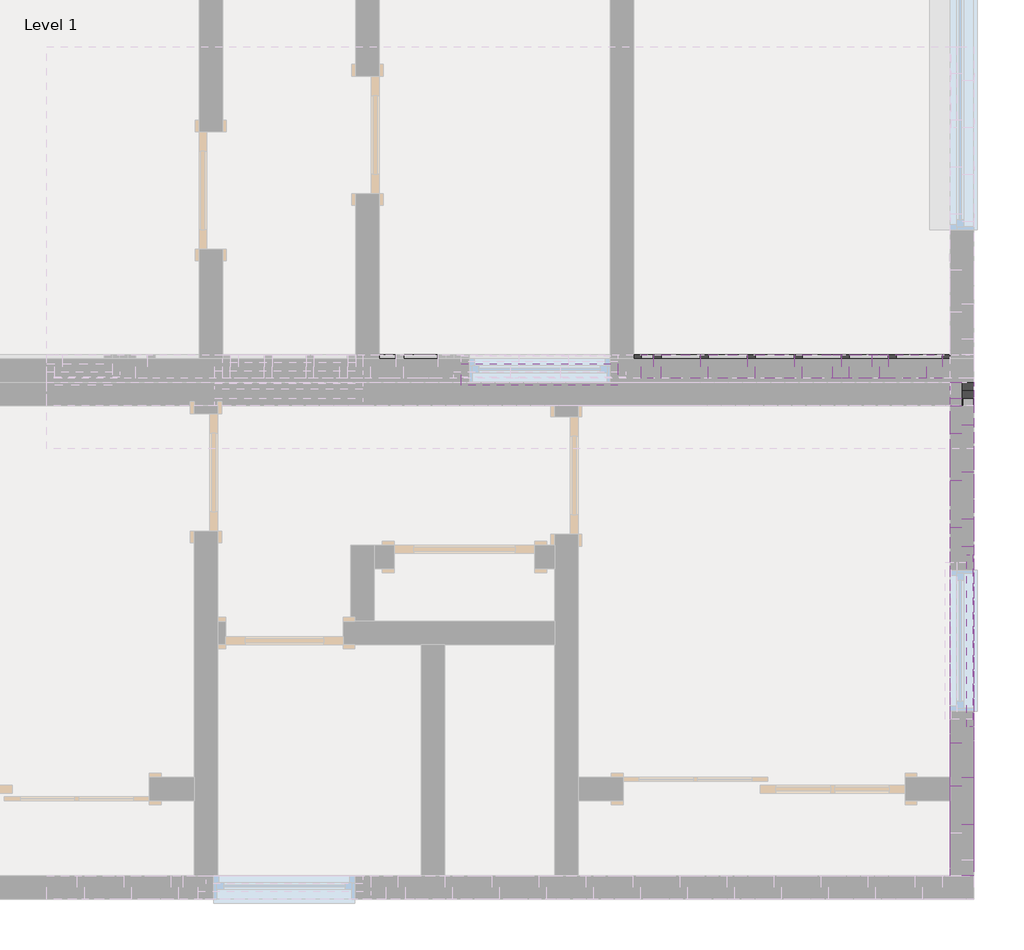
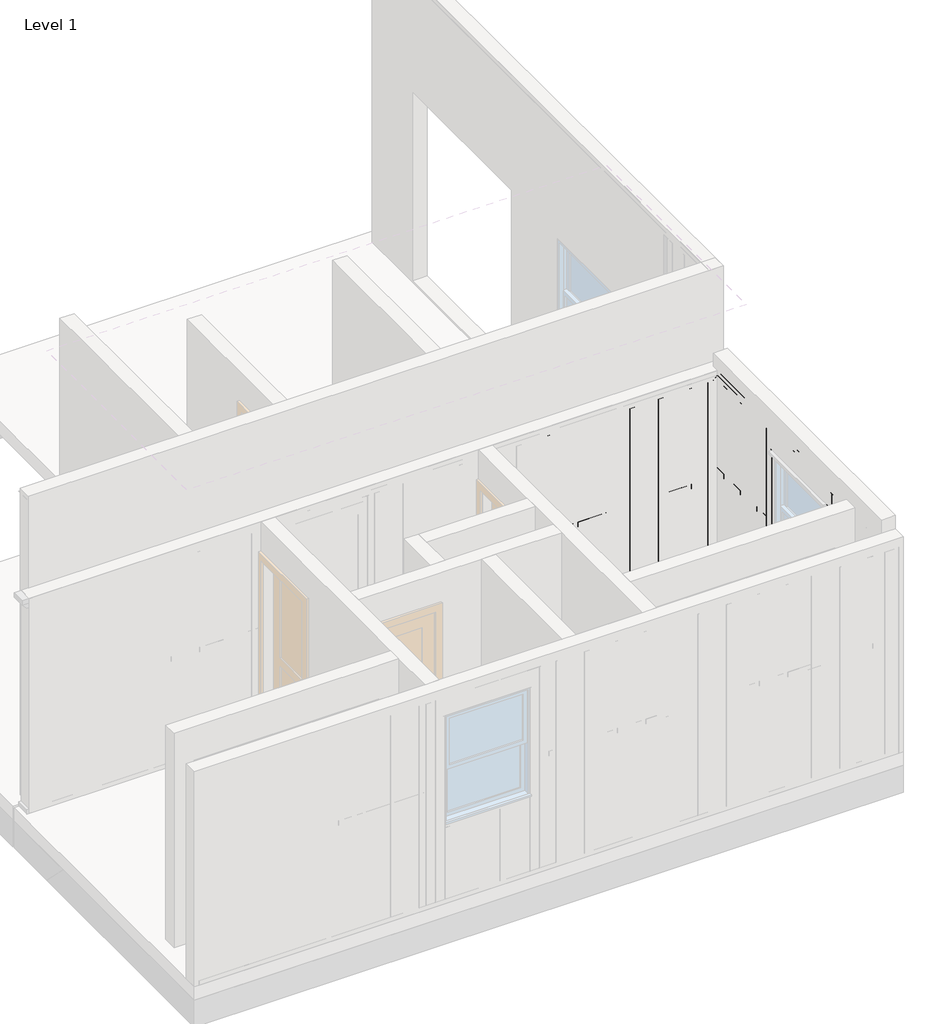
# One storey, part 6 of 12: 101 beams.
"""IFC4 building model written with IfcOpenShell, lengths in millimetres."""

from ifc_helpers import new_model, si_unit, frame, origin, origin_with_axes, place, context, project, spatial, polyline, outline, extrude, transform, mapped, element, save
from components import beam_19dc0cb4, beam_19b97b81, beam_ea41eedf, beam_df0c2ff2, beam_987380b4, beam_558964e0, beam_a6087a68, beam_303ef41e, beam_e0216813, beam_b7962ac8, beam_15472744, beam_e05c4371, beam_c305210a, beam_e041d9c6, beam_d532e8d7, beam_9beb57b8, beam_4316c0f3, beam_6c0b117f, beam_b94c8671, beam_50f049cc, beam_14a9e158, beam_a4d90c35, beam_b09705a2, beam_34389604, beam_9d6aa0d6, beam_89d9a2a3, beam_b55a0d5f, beam_51b55d0f, beam_9a5d82eb, beam_92cb46f1, beam_68e625a2

model = new_model("IFC4")

# Units and contexts
model_context = context("Model", 3, world=origin())
ifc_project = project(units=[si_unit("LENGTHUNIT", "METRE", prefix="MILLI")], contexts=[model_context])

# Site, building, storey
site = spatial("IfcSite", under=ifc_project)
building = spatial("IfcBuilding", under=site)
storey = spatial("IfcBuildingStorey", under=building, Name="Level 1", Elevation=0.0)

# Beams
placement = place(None, origin())
element("IfcBeam", 1, ObjectType="Rectangular(Timber)-Beam : Timber_0' - 1 31/32\" x0' - 5 29/32\" _ContentGenerator", at=placement, inside=storey, context=model_context, shape_type="SweptSolid", body=[
    extrude(outline(polyline([(-25186.1713369, 2387.6), (-25236.9713369, 2336.8), (-28335.7663369, 2336.8), (-28386.5663369, 2387.6), (-25186.1713369, 2387.6)])), frame((-4062.0790766, 0.0, 0.0), z_axis=(1.0, 0.0, 0.0), x_axis=(0.0, 1.0, 0.0)), (0.0, 0.0, 1.0), 152.4),
])
element("IfcBeam", 2, ObjectType="Rectangular(Timber)-Beam : Timber_0' - 1 31/32\" x0' - 5 29/32\" _ContentGenerator", at=placement, inside=storey, context=model_context, shape_type="SweptSolid", body=[
    extrude(outline(polyline([(-25236.9713369, 2336.8), (-25186.1713369, 2387.6), (-25186.1713369, 0.0), (-25236.9713369, 0.0), (-25236.9713369, 2336.8)])), frame((-4062.0790766, 0.0, 0.0), z_axis=(1.0, 0.0, 0.0), x_axis=(0.0, 1.0, 0.0)), (0.0, 0.0, 1.0), 152.4),
])
element("IfcBeam", 3, ObjectType="Rectangular(Timber)-Beam : Timber_0' - 1 31/32\" x0' - 5 29/32\" _ContentGenerator", at=placement, inside=storey, context=model_context, shape_type="SweptSolid", body=[
    extrude(outline(polyline([(-3909.6790766, -27421.3663369), (-3909.6790766, -27472.1663369), (-4062.0790766, -27472.1663369), (-4062.0790766, -27421.3663369), (-3909.6790766, -27421.3663369)])), frame((0.0, 0.0, 50.8), z_axis=(0.0, 0.0, 1.0), x_axis=(1.0, 0.0, 0.0)), (0.0, 0.0, 1.0), 2286.0),
])
element("IfcBeam", 4, ObjectType="Rectangular(Timber)-Beam : Timber_0' - 1 31/32\" x0' - 5 29/32\" _ContentGenerator", at=placement, inside=storey, context=model_context, shape_type="SweptSolid", body=[
    extrude(outline(polyline([(-3909.6790766, -26252.9863369), (-3909.6790766, -26303.7863369), (-4062.0790766, -26303.7863369), (-4062.0790766, -26252.9863369), (-3909.6790766, -26252.9863369)])), frame((0.0, 0.0, 50.8), z_axis=(0.0, 0.0, 1.0), x_axis=(1.0, 0.0, 0.0)), (0.0, 0.0, 1.0), 2286.0),
])
element("IfcBeam", 5, ObjectType="Rectangular(Timber)-Beam : Timber_0' - 1 31/32\" x0' - 5 29/32\" _ContentGenerator", at=placement, inside=storey, context=model_context, shape_type="SweptSolid", body=[
    extrude(outline(polyline([(2387.6, -4062.0890766), (2336.8, -4112.8890766), (50.8, -4112.8890766), (50.8, -4062.0890766), (2387.6, -4062.0890766)])), frame((0.0, -25338.5763369, 0.0), z_axis=(0.0, 1.0, 0.0), x_axis=(0.0, 0.0, 1.0)), (0.0, 0.0, 1.0), 152.4),
])
element("IfcBeam", 6, ObjectType="Rectangular(Timber)-Beam : Timber_0' - 1 31/32\" x0' - 5 29/32\" _ContentGenerator", at=placement, inside=storey, context=model_context, shape_type="SweptSolid", body=[
    extrude(outline(polyline([(-3909.6790766, -28335.7663369), (-4062.0790766, -28335.7663369), (-4062.0790766, -25236.9713369), (-3909.6790766, -25236.9713369), (-3909.6790766, -28335.7663369)])), origin_with_axes(), (0.0, 0.0, 1.0), 50.8),
])
element("IfcBeam", 7, ObjectType="Rectangular(Timber)-Beam : Timber_0' - 1 31/32\" x0' - 5 29/32\" _ContentGenerator", at=placement, inside=storey, context=model_context, shape_type="SweptSolid", body=[
    extrude(outline(polyline([(-3909.6740766, -25186.1763369), (-3909.6740766, -25338.5763369), (-7922.8840766, -25338.5763369), (-7922.8840766, -25186.1763369), (-3909.6740766, -25186.1763369)])), origin_with_axes(), (0.0, 0.0, 1.0), 50.8),
])
element("IfcBeam", 8, ObjectType="Rectangular(Timber)-Beam : Timber_0' - 1 31/32\" x0' - 5 29/32\" _ContentGenerator", at=placement, inside=storey, context=model_context, shape_type="SweptSolid", body=[
    extrude(outline(polyline([(-7922.8840766, -25160.7763369), (-7922.8840766, -25008.3763369), (-3960.4740766, -25008.3763369), (-3960.4740766, -25160.7763369), (-7922.8840766, -25160.7763369)])), origin_with_axes(), (0.0, 0.0, 1.0), 50.8),
])
element("IfcBeam", 9, ObjectType="Rectangular(Timber)-Beam : Timber_0' - 1 31/32\" x0' - 5 29/32\" _ContentGenerator", at=placement, inside=storey, context=model_context, shape_type="SweptSolid", body=[
    extrude(outline(polyline([(-3909.6790766, -26202.1863369), (-3909.6790766, -26252.9863369), (-4062.0790766, -26252.9863369), (-4062.0790766, -26202.1863369), (-3909.6790766, -26202.1863369)])), frame((0.0, 0.0, 50.8), z_axis=(0.0, 0.0, 1.0), x_axis=(1.0, 0.0, 0.0)), (0.0, 0.0, 1.0), 2286.0),
])
element("IfcBeam", 10, ObjectType="Rectangular(Timber)-Beam : Timber_0' - 1 31/32\" x0' - 5 29/32\" _ContentGenerator", at=placement, inside=storey, context=model_context, shape_type="SweptSolid", body=[
    extrude(outline(polyline([(-3909.6790766, -27472.1463369), (-3909.6790766, -27522.9463369), (-4062.0790766, -27522.9463369), (-4062.0790766, -27472.1463369), (-3909.6790766, -27472.1463369)])), frame((0.0, 0.0, 50.8), z_axis=(0.0, 0.0, 1.0), x_axis=(1.0, 0.0, 0.0)), (0.0, 0.0, 1.0), 2286.0),
])
beam_shape = beam_19dc0cb4(model_context)
element("IfcBeam", 11, ObjectType="Rectangular(Timber)-Beam : Timber_0' - 1 31/32\" x0' - 5 29/32\" _ContentGenerator", at=placement, inside=storey, context=model_context, shape_type="MappedRepresentation", body=[
    mapped(beam_shape, transform((-4163.6790766, -25084.5763369, 1314.45), x_axis=(1.0000000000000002, 0.0, 0.0), y_axis=(0.0, 0.0, -1.0000000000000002), z_axis=(0.0, 1.0000000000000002, 0.0))),
])
beam_2_shape = beam_19b97b81(model_context)
element("IfcBeam", 12, ObjectType="Rectangular(Timber)-Beam : Timber_0' - 1 31/32\" x0' - 5 29/32\" _ContentGenerator", at=placement, inside=storey, context=model_context, shape_type="MappedRepresentation", body=[
    mapped(beam_2_shape, transform((-4697.0890766, -25084.5763369, 1314.45), x_axis=(1.0000000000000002, 0.0, 0.0), y_axis=(0.0, 0.0, -1.0000000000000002), z_axis=(0.0, 1.0000000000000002, 0.0))),
])
beam_3_shape = beam_ea41eedf(model_context)
element("IfcBeam", 13, ObjectType="Rectangular(Timber)-Beam : Timber_0' - 1 31/32\" x0' - 5 29/32\" _ContentGenerator", at=placement, inside=storey, context=model_context, shape_type="MappedRepresentation", body=[
    mapped(beam_3_shape, transform((-3985.8790766, -27649.9613369, 1314.45), x_axis=(0.0, 1.0000000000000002, 0.0), y_axis=(0.0, 0.0, -1.0000000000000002), z_axis=(-1.0000000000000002, 0.0, 0.0))),
])
beam_4_shape = beam_df0c2ff2(model_context)
element("IfcBeam", 14, ObjectType="Rectangular(Timber)-Beam : Timber_0' - 1 31/32\" x0' - 5 29/32\" _ContentGenerator", at=placement, inside=storey, context=model_context, shape_type="MappedRepresentation", body=[
    mapped(beam_4_shape, transform((-6025.494102, -25084.5763369, 1314.45), x_axis=(1.0000000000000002, 0.0, 0.0), y_axis=(0.0, 0.0, -1.0000000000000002), z_axis=(0.0, 1.0000000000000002, 0.0))),
])
beam_5_shape = beam_987380b4(model_context)
element("IfcBeam", 15, ObjectType="Rectangular(Timber)-Beam : Timber_0' - 1 31/32\" x0' - 5 29/32\" _ContentGenerator", at=placement, inside=storey, context=model_context, shape_type="MappedRepresentation", body=[
    mapped(beam_5_shape, transform((-4316.0790766, -25084.5763369, 1314.45), x_axis=(1.0000000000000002, 0.0, 0.0), y_axis=(0.0, 0.0, -1.0000000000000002), z_axis=(0.0, 1.0000000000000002, 0.0))),
])
beam_6_shape = beam_558964e0(model_context)
element("IfcBeam", 16, ObjectType="Rectangular(Timber)-Beam : Timber_0' - 1 31/32\" x0' - 5 29/32\" _ContentGenerator", at=placement, inside=storey, context=model_context, shape_type="MappedRepresentation", body=[
    mapped(beam_6_shape, transform((-3985.8790766, -27776.9763369, 1193.8), x_axis=(0.0, 0.0, 1.0), y_axis=(0.0, -1.0, 0.0), z_axis=(1.0, 0.0, 0.0))),
])
element("IfcBeam", 17, ObjectType="Rectangular(Timber)-Beam : Timber_0' - 1 31/32\" x0' - 5 29/32\" _ContentGenerator", at=placement, inside=storey, context=model_context, shape_type="MappedRepresentation", body=[
    mapped(beam_6_shape, transform((-3985.8790766, -25262.3663369, 1193.8), x_axis=(0.0, 0.0, 1.0), y_axis=(0.0, -1.0, 0.0), z_axis=(1.0, 0.0, 0.0))),
])
element("IfcBeam", 18, ObjectType="Rectangular(Timber)-Beam : Timber_0' - 1 31/32\" x0' - 5 29/32\" _ContentGenerator", at=placement, inside=storey, context=model_context, shape_type="MappedRepresentation", body=[
    mapped(beam_6_shape, transform((-3985.8790766, -26100.5763369, 1193.8), x_axis=(0.0, 0.0, 1.0), y_axis=(0.0, -1.0, 0.0), z_axis=(1.0, 0.0, 0.0))),
])
element("IfcBeam", 19, ObjectType="Rectangular(Timber)-Beam : Timber_0' - 1 31/32\" x0' - 5 29/32\" _ContentGenerator", at=placement, inside=storey, context=model_context, shape_type="MappedRepresentation", body=[
    mapped(beam_6_shape, transform((-3985.8790766, -25795.7763369, 1193.8), x_axis=(0.0, 0.0, 1.0), y_axis=(0.0, -1.0, 0.0), z_axis=(1.0, 0.0, 0.0))),
])
element("IfcBeam", 20, ObjectType="Rectangular(Timber)-Beam : Timber_0' - 1 31/32\" x0' - 5 29/32\" _ContentGenerator", at=placement, inside=storey, context=model_context, shape_type="MappedRepresentation", body=[
    mapped(beam_6_shape, transform((-3985.8790766, -25490.9763369, 1193.8), x_axis=(0.0, 0.0, 1.0), y_axis=(0.0, -1.0, 0.0), z_axis=(1.0, 0.0, 0.0))),
])
element("IfcBeam", 21, ObjectType="Rectangular(Timber)-Beam : Timber_0' - 1 31/32\" x0' - 5 29/32\" _ContentGenerator", at=placement, inside=storey, context=model_context, shape_type="MappedRepresentation", body=[
    mapped(beam_6_shape, transform((-4138.2890766, -25262.3763369, 1193.8), x_axis=(0.0, 0.0, 1.0), y_axis=(1.0, 0.0, 0.0), z_axis=(0.0, 1.0, 0.0))),
])
element("IfcBeam", 22, ObjectType="Rectangular(Timber)-Beam : Timber_0' - 1 31/32\" x0' - 5 29/32\" _ContentGenerator", at=placement, inside=storey, context=model_context, shape_type="MappedRepresentation", body=[
    mapped(beam_6_shape, transform((-4366.8790766, -25262.3763369, 1193.8), x_axis=(0.0, 0.0, 1.0), y_axis=(1.0, 0.0, 0.0), z_axis=(0.0, 1.0, 0.0))),
])
element("IfcBeam", 23, ObjectType="Rectangular(Timber)-Beam : Timber_0' - 1 31/32\" x0' - 5 29/32\" _ContentGenerator", at=placement, inside=storey, context=model_context, shape_type="MappedRepresentation", body=[
    mapped(beam_6_shape, transform((-4671.6790766, -25262.3763369, 1193.8), x_axis=(0.0, 0.0, 1.0), y_axis=(1.0, 0.0, 0.0), z_axis=(0.0, 1.0, 0.0))),
])
element("IfcBeam", 24, ObjectType="Rectangular(Timber)-Beam : Timber_0' - 1 31/32\" x0' - 5 29/32\" _ContentGenerator", at=placement, inside=storey, context=model_context, shape_type="MappedRepresentation", body=[
    mapped(beam_6_shape, transform((-4976.4790766, -25262.3763369, 1193.8), x_axis=(0.0, 0.0, 1.0), y_axis=(1.0, 0.0, 0.0), z_axis=(0.0, 1.0, 0.0))),
])
element("IfcBeam", 25, ObjectType="Rectangular(Timber)-Beam : Timber_0' - 1 31/32\" x0' - 5 29/32\" _ContentGenerator", at=placement, inside=storey, context=model_context, shape_type="MappedRepresentation", body=[
    mapped(beam_6_shape, transform((-5281.2790766, -25262.3763369, 1193.8), x_axis=(0.0, 0.0, 1.0), y_axis=(1.0, 0.0, 0.0), z_axis=(0.0, 1.0, 0.0))),
])
element("IfcBeam", 26, ObjectType="Rectangular(Timber)-Beam : Timber_0' - 1 31/32\" x0' - 5 29/32\" _ContentGenerator", at=placement, inside=storey, context=model_context, shape_type="MappedRepresentation", body=[
    mapped(beam_6_shape, transform((-5890.8790766, -25262.3763369, 1193.8), x_axis=(0.0, 0.0, 1.0), y_axis=(1.0, 0.0, 0.0), z_axis=(0.0, 1.0, 0.0))),
])
element("IfcBeam", 27, ObjectType="Rectangular(Timber)-Beam : Timber_0' - 1 31/32\" x0' - 5 29/32\" _ContentGenerator", at=placement, inside=storey, context=model_context, shape_type="MappedRepresentation", body=[
    mapped(beam_6_shape, transform((-5586.0790766, -25262.3763369, 1193.8), x_axis=(0.0, 0.0, 1.0), y_axis=(1.0, 0.0, 0.0), z_axis=(0.0, 1.0, 0.0))),
])
beam_7_shape = beam_a6087a68(model_context)
element("IfcBeam", 28, ObjectType="Rectangular(Timber)-Beam : Timber_0' - 1 31/32\" x0' - 5 29/32\" _ContentGenerator", at=placement, inside=storey, context=model_context, shape_type="MappedRepresentation", body=[
    mapped(beam_7_shape, transform((-3985.8790766, -27929.3763369, 1314.45), x_axis=(0.0, 1.0000000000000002, 0.0), y_axis=(0.0, 0.0, -1.0000000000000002), z_axis=(-1.0000000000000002, 0.0, 0.0))),
])
element("IfcBeam", 29, ObjectType="Rectangular(Timber)-Beam : Timber_0' - 1 31/32\" x0' - 5 29/32\" _ContentGenerator", at=placement, inside=storey, context=model_context, shape_type="MappedRepresentation", body=[
    mapped(beam_7_shape, transform((-5809.599102, -25084.5763369, 1314.45), x_axis=(1.0000000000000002, 0.0, 0.0), y_axis=(0.0, 0.0, -1.0000000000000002), z_axis=(0.0, 1.0000000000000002, 0.0))),
])
element("IfcBeam", 30, ObjectType="Rectangular(Timber)-Beam : Timber_0' - 1 31/32\" x0' - 5 29/32\" _ContentGenerator", at=placement, inside=storey, context=model_context, shape_type="MappedRepresentation", body=[
    mapped(beam_7_shape, transform((-5504.799102, -25084.5763369, 1314.45), x_axis=(1.0000000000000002, 0.0, 0.0), y_axis=(0.0, 0.0, -1.0000000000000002), z_axis=(0.0, 1.0000000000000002, 0.0))),
])
element("IfcBeam", 31, ObjectType="Rectangular(Timber)-Beam : Timber_0' - 1 31/32\" x0' - 5 29/32\" _ContentGenerator", at=placement, inside=storey, context=model_context, shape_type="MappedRepresentation", body=[
    mapped(beam_7_shape, transform((-5199.999102, -25084.5763369, 1314.45), x_axis=(1.0000000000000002, 0.0, 0.0), y_axis=(0.0, 0.0, -1.0000000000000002), z_axis=(0.0, 1.0000000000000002, 0.0))),
])
element("IfcBeam", 32, ObjectType="Rectangular(Timber)-Beam : Timber_0' - 1 31/32\" x0' - 5 29/32\" _ContentGenerator", at=placement, inside=storey, context=model_context, shape_type="MappedRepresentation", body=[
    mapped(beam_7_shape, transform((-4895.199102, -25084.5763369, 1314.45), x_axis=(1.0000000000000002, 0.0, 0.0), y_axis=(0.0, 0.0, -1.0000000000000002), z_axis=(0.0, 1.0000000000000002, 0.0))),
])
element("IfcBeam", 33, ObjectType="Rectangular(Timber)-Beam : Timber_0' - 1 31/32\" x0' - 5 29/32\" _ContentGenerator", at=placement, inside=storey, context=model_context, shape_type="MappedRepresentation", body=[
    mapped(beam_7_shape, transform((-4590.399102, -25084.5763369, 1314.45), x_axis=(1.0000000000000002, 0.0, 0.0), y_axis=(0.0, 0.0, -1.0000000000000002), z_axis=(0.0, 1.0000000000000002, 0.0))),
])
beam_8_shape = beam_303ef41e(model_context)
element("IfcBeam", 34, ObjectType="Rectangular(Timber)-Beam : Timber_0' - 1 31/32\" x0' - 5 29/32\" _ContentGenerator", at=placement, inside=storey, context=model_context, shape_type="MappedRepresentation", body=[
    mapped(beam_8_shape, transform((-3985.8790766, -26862.5763369, 2413.0), x_axis=(0.0, 1.0000000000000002, 0.0), y_axis=(0.0, 0.0, -1.0000000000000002), z_axis=(-1.0000000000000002, 0.0, 0.0))),
])
beam_9_shape = beam_e0216813(model_context)
element("IfcBeam", 35, ObjectType="Rectangular(Timber)-Beam : Timber_0' - 1 31/32\" x0' - 5 29/32\" _ContentGenerator", at=placement, inside=storey, context=model_context, shape_type="MappedRepresentation", body=[
    mapped(beam_9_shape, transform((-6190.589102, -25084.5763369, 1117.6), x_axis=(0.0, 0.0, 1.0), y_axis=(1.0, 0.0, 0.0), z_axis=(0.0, 1.0, 0.0))),
])
beam_10_shape = beam_b7962ac8(model_context)
element("IfcBeam", 36, ObjectType="Rectangular(Timber)-Beam : Timber_0' - 1 31/32\" x0' - 5 29/32\" _ContentGenerator", at=placement, inside=storey, context=model_context, shape_type="MappedRepresentation", body=[
    mapped(beam_10_shape, transform((-3985.8790766, -27294.3663369, 457.2), x_axis=(0.0, 0.0, 1.0), y_axis=(0.0, -1.0, 0.0), z_axis=(1.0, 0.0, 0.0))),
])
element("IfcBeam", 37, ObjectType="Rectangular(Timber)-Beam : Timber_0' - 1 31/32\" x0' - 5 29/32\" _ContentGenerator", at=placement, inside=storey, context=model_context, shape_type="MappedRepresentation", body=[
    mapped(beam_10_shape, transform((-3985.8790766, -26430.7663369, 457.2), x_axis=(0.0, 0.0, 1.0), y_axis=(0.0, -1.0, 0.0), z_axis=(1.0, 0.0, 0.0))),
])
element("IfcBeam", 38, ObjectType="Rectangular(Timber)-Beam : Timber_0' - 1 31/32\" x0' - 5 29/32\" _ContentGenerator", at=placement, inside=storey, context=model_context, shape_type="MappedRepresentation", body=[
    mapped(beam_10_shape, transform((-3985.8790766, -27023.4430036, 457.2), x_axis=(0.0, 0.0, 1.0), y_axis=(0.0, -1.0, 0.0), z_axis=(1.0, 0.0, 0.0))),
])
element("IfcBeam", 39, ObjectType="Rectangular(Timber)-Beam : Timber_0' - 1 31/32\" x0' - 5 29/32\" _ContentGenerator", at=placement, inside=storey, context=model_context, shape_type="MappedRepresentation", body=[
    mapped(beam_10_shape, transform((-3985.8790766, -26701.7096702, 457.2), x_axis=(0.0, 0.0, 1.0), y_axis=(0.0, -1.0, 0.0), z_axis=(1.0, 0.0, 0.0))),
])
beam_11_shape = beam_15472744(model_context)
element("IfcBeam", 40, ObjectType="Rectangular(Timber)-Beam : Timber_0' - 1 31/32\" x0' - 5 29/32\" _ContentGenerator", at=placement, inside=storey, context=model_context, shape_type="MappedRepresentation", body=[
    mapped(beam_11_shape, transform((-4036.6690766, -25084.5763369, 1715.8284875), x_axis=(0.0, 0.0, 1.0), y_axis=(1.0, 0.0, 0.0), z_axis=(0.0, 1.0, 0.0))),
])
element("IfcBeam", 41, ObjectType="Rectangular(Timber)-Beam : Timber_0' - 1 31/32\" x0' - 5 29/32\" _ContentGenerator", at=placement, inside=storey, context=model_context, shape_type="MappedRepresentation", body=[
    mapped(beam_11_shape, transform((-5961.999102, -25084.5763369, 1715.8284875), x_axis=(0.0, 0.0, 1.0), y_axis=(1.0, 0.0, 0.0), z_axis=(0.0, 1.0, 0.0))),
])
element("IfcBeam", 42, ObjectType="Rectangular(Timber)-Beam : Timber_0' - 1 31/32\" x0' - 5 29/32\" _ContentGenerator", at=placement, inside=storey, context=model_context, shape_type="MappedRepresentation", body=[
    mapped(beam_11_shape, transform((-5657.199102, -25084.5763369, 1715.8284875), x_axis=(0.0, 0.0, 1.0), y_axis=(1.0, 0.0, 0.0), z_axis=(0.0, 1.0, 0.0))),
])
element("IfcBeam", 43, ObjectType="Rectangular(Timber)-Beam : Timber_0' - 1 31/32\" x0' - 5 29/32\" _ContentGenerator", at=placement, inside=storey, context=model_context, shape_type="MappedRepresentation", body=[
    mapped(beam_11_shape, transform((-5352.399102, -25084.5763369, 1715.8284875), x_axis=(0.0, 0.0, 1.0), y_axis=(1.0, 0.0, 0.0), z_axis=(0.0, 1.0, 0.0))),
])
element("IfcBeam", 44, ObjectType="Rectangular(Timber)-Beam : Timber_0' - 1 31/32\" x0' - 5 29/32\" _ContentGenerator", at=placement, inside=storey, context=model_context, shape_type="MappedRepresentation", body=[
    mapped(beam_11_shape, transform((-5047.599102, -25084.5763369, 1715.8284875), x_axis=(0.0, 0.0, 1.0), y_axis=(1.0, 0.0, 0.0), z_axis=(0.0, 1.0, 0.0))),
])
element("IfcBeam", 45, ObjectType="Rectangular(Timber)-Beam : Timber_0' - 1 31/32\" x0' - 5 29/32\" _ContentGenerator", at=placement, inside=storey, context=model_context, shape_type="MappedRepresentation", body=[
    mapped(beam_11_shape, transform((-4742.799102, -25084.5763369, 1715.8284875), x_axis=(0.0, 0.0, 1.0), y_axis=(1.0, 0.0, 0.0), z_axis=(0.0, 1.0, 0.0))),
])
element("IfcBeam", 46, ObjectType="Rectangular(Timber)-Beam : Timber_0' - 1 31/32\" x0' - 5 29/32\" _ContentGenerator", at=placement, inside=storey, context=model_context, shape_type="MappedRepresentation", body=[
    mapped(beam_11_shape, transform((-4437.999102, -25084.5763369, 1715.8284875), x_axis=(0.0, 0.0, 1.0), y_axis=(1.0, 0.0, 0.0), z_axis=(0.0, 1.0, 0.0))),
])
element("IfcBeam", 47, ObjectType="Rectangular(Timber)-Beam : Timber_0' - 1 31/32\" x0' - 5 29/32\" _ContentGenerator", at=placement, inside=storey, context=model_context, shape_type="MappedRepresentation", body=[
    mapped(beam_11_shape, transform((-4087.4690766, -25084.5763369, 1715.8284875), x_axis=(0.0, 0.0, 1.0), y_axis=(1.0, 0.0, 0.0), z_axis=(0.0, 1.0, 0.0))),
])
element("IfcBeam", 48, ObjectType="Rectangular(Timber)-Beam : Timber_0' - 1 31/32\" x0' - 5 29/32\" _ContentGenerator", at=placement, inside=storey, context=model_context, shape_type="MappedRepresentation", body=[
    mapped(beam_11_shape, transform((-6088.989102, -25084.5763369, 1715.8284875), x_axis=(0.0, 0.0, 1.0), y_axis=(1.0, 0.0, 0.0), z_axis=(0.0, 1.0, 0.0))),
])
beam_12_shape = beam_e05c4371(model_context)
element("IfcBeam", 49, ObjectType="Rectangular(Timber)-Beam : Timber_0' - 1 31/32\" x0' - 5 29/32\" _ContentGenerator", at=placement, inside=storey, context=model_context, shape_type="MappedRepresentation", body=[
    mapped(beam_12_shape, transform((-3985.8790766, -26862.5663369, 889.0), x_axis=(0.0, 1.0000000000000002, 0.0), y_axis=(0.0, 0.0, -1.0000000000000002), z_axis=(-1.0000000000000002, 0.0, 0.0))),
])
element("IfcBeam", 50, ObjectType="Rectangular(Timber)-Beam : Timber_0' - 1 31/32\" x0' - 5 29/32\" _ContentGenerator", at=placement, inside=storey, context=model_context, shape_type="MappedRepresentation", body=[
    mapped(beam_2_shape, transform((-3985.8790766, -25948.1763369, 1314.45), x_axis=(0.0, 1.0000000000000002, 0.0), y_axis=(0.0, 0.0, -1.0000000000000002), z_axis=(-1.0000000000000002, 0.0, 0.0))),
])
element("IfcBeam", 51, ObjectType="Rectangular(Timber)-Beam : Timber_0' - 1 31/32\" x0' - 5 29/32\" _ContentGenerator", at=placement, inside=storey, context=model_context, shape_type="MappedRepresentation", body=[
    mapped(beam_2_shape, transform((-3985.8790766, -25643.3763369, 1314.45), x_axis=(0.0, 1.0000000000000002, 0.0), y_axis=(0.0, 0.0, -1.0000000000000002), z_axis=(-1.0000000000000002, 0.0, 0.0))),
])
element("IfcBeam", 52, ObjectType="Rectangular(Timber)-Beam : Timber_0' - 1 31/32\" x0' - 5 29/32\" _ContentGenerator", at=placement, inside=storey, context=model_context, shape_type="MappedRepresentation", body=[
    mapped(beam_2_shape, transform((-4519.2790766, -25262.3763369, 1219.2), x_axis=(-1.0000000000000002, 0.0, 0.0), y_axis=(0.0, 0.0, -1.0000000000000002), z_axis=(0.0, -1.0000000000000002, 0.0))),
])
element("IfcBeam", 53, ObjectType="Rectangular(Timber)-Beam : Timber_0' - 1 31/32\" x0' - 5 29/32\" _ContentGenerator", at=placement, inside=storey, context=model_context, shape_type="MappedRepresentation", body=[
    mapped(beam_2_shape, transform((-4824.0790766, -25262.3763369, 1219.2), x_axis=(-1.0000000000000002, 0.0, 0.0), y_axis=(0.0, 0.0, -1.0000000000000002), z_axis=(0.0, -1.0000000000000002, 0.0))),
])
element("IfcBeam", 54, ObjectType="Rectangular(Timber)-Beam : Timber_0' - 1 31/32\" x0' - 5 29/32\" _ContentGenerator", at=placement, inside=storey, context=model_context, shape_type="MappedRepresentation", body=[
    mapped(beam_2_shape, transform((-5128.8790766, -25262.3763369, 1219.2), x_axis=(-1.0000000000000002, 0.0, 0.0), y_axis=(0.0, 0.0, -1.0000000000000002), z_axis=(0.0, -1.0000000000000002, 0.0))),
])
element("IfcBeam", 55, ObjectType="Rectangular(Timber)-Beam : Timber_0' - 1 31/32\" x0' - 5 29/32\" _ContentGenerator", at=placement, inside=storey, context=model_context, shape_type="MappedRepresentation", body=[
    mapped(beam_2_shape, transform((-5433.6790766, -25262.3763369, 1219.2), x_axis=(-1.0000000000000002, 0.0, 0.0), y_axis=(0.0, 0.0, -1.0000000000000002), z_axis=(0.0, -1.0000000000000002, 0.0))),
])
element("IfcBeam", 56, ObjectType="Rectangular(Timber)-Beam : Timber_0' - 1 31/32\" x0' - 5 29/32\" _ContentGenerator", at=placement, inside=storey, context=model_context, shape_type="MappedRepresentation", body=[
    mapped(beam_2_shape, transform((-5738.4790766, -25262.3763369, 1219.2), x_axis=(-1.0000000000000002, 0.0, 0.0), y_axis=(0.0, 0.0, -1.0000000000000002), z_axis=(0.0, -1.0000000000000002, 0.0))),
])
beam_13_shape = beam_c305210a(model_context)
element("IfcBeam", 57, ObjectType="Rectangular(Timber)-Beam : Timber_0' - 1 31/32\" x0' - 5 29/32\" _ContentGenerator", at=placement, inside=storey, context=model_context, shape_type="MappedRepresentation", body=[
    mapped(beam_13_shape, transform((-3985.8790766, -26189.4813369, 1314.45), x_axis=(0.0, 1.0000000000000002, 0.0), y_axis=(0.0, 0.0, -1.0000000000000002), z_axis=(-1.0000000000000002, 0.0, 0.0))),
])
beam_14_shape = beam_e041d9c6(model_context)
element("IfcBeam", 58, ObjectType="Rectangular(Timber)-Beam : Timber_0' - 1 31/32\" x0' - 5 29/32\" _ContentGenerator", at=placement, inside=storey, context=model_context, shape_type="MappedRepresentation", body=[
    mapped(beam_14_shape, transform((-4252.5840766, -25262.3763369, 1219.2), x_axis=(-1.0000000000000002, 0.0, 0.0), y_axis=(0.0, 0.0, -1.0000000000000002), z_axis=(0.0, -1.0000000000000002, 0.0))),
])
beam_15_shape = beam_d532e8d7(model_context)
element("IfcBeam", 59, ObjectType="Rectangular(Timber)-Beam : Timber_0' - 1 31/32\" x0' - 5 29/32\" _ContentGenerator", at=placement, inside=storey, context=model_context, shape_type="MappedRepresentation", body=[
    mapped(beam_15_shape, transform((-3985.8790766, -25389.3713369, 1314.45), x_axis=(0.0, 1.0000000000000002, 0.0), y_axis=(0.0, 0.0, -1.0000000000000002), z_axis=(-1.0000000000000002, 0.0, 0.0))),
])
beam_16_shape = beam_9beb57b8(model_context)
element("IfcBeam", 60, ObjectType="Rectangular(Timber)-Beam : Timber_0' - 1 31/32\" x0' - 5 29/32\" _ContentGenerator", at=placement, inside=storey, context=model_context, shape_type="MappedRepresentation", body=[
    mapped(beam_16_shape, transform((-3985.8790766, -27345.1663369, 1101.725), x_axis=(0.0, 0.0, 1.0), y_axis=(0.0, -1.0, 0.0), z_axis=(1.0, 0.0, 0.0))),
])
element("IfcBeam", 61, ObjectType="Rectangular(Timber)-Beam : Timber_0' - 1 31/32\" x0' - 5 29/32\" _ContentGenerator", at=placement, inside=storey, context=model_context, shape_type="MappedRepresentation", body=[
    mapped(beam_16_shape, transform((-3985.8790766, -26379.9663369, 1101.725), x_axis=(0.0, 0.0, 1.0), y_axis=(0.0, -1.0, 0.0), z_axis=(1.0, 0.0, 0.0))),
])
element("IfcBeam", 62, ObjectType="Rectangular(Timber)-Beam : Timber_0' - 1 31/32\" x0' - 5 29/32\" _ContentGenerator", at=placement, inside=storey, context=model_context, shape_type="MappedRepresentation", body=[
    mapped(beam_16_shape, transform((-3985.8790766, -26329.1663369, 1101.725), x_axis=(0.0, 0.0, 1.0), y_axis=(0.0, -1.0, 0.0), z_axis=(1.0, 0.0, 0.0))),
])
element("IfcBeam", 63, ObjectType="Rectangular(Timber)-Beam : Timber_0' - 1 31/32\" x0' - 5 29/32\" _ContentGenerator", at=placement, inside=storey, context=model_context, shape_type="MappedRepresentation", body=[
    mapped(beam_16_shape, transform((-3985.8790766, -27395.9863369, 1101.725), x_axis=(0.0, 0.0, 1.0), y_axis=(0.0, -1.0, 0.0), z_axis=(1.0, 0.0, 0.0))),
])
beam_17_shape = beam_4316c0f3(model_context)
element("IfcBeam", 64, ObjectType="WallPlates : 6\" x 2\"", at=placement, inside=storey, context=model_context, shape_type="MappedRepresentation", body=[
    mapped(beam_17_shape, transform((-6723.999102, -25135.3763369, 2165.35), x_axis=(1.0, 0.0, 0.0), y_axis=(0.0, 1.0, 0.0), z_axis=(0.0, 0.0, 1.0))),
])
element("IfcBeam", 65, ObjectType="WallPlates : 6\" x 3\"", at=placement, inside=storey, context=model_context, shape_type="SweptSolid", body=[
    extrude(outline(polyline([(-5560.6790766, -25186.1763369), (-5560.6790766, -25249.6763369), (-5865.4790766, -25249.6763369), (-5865.4790766, -25186.1763369), (-5560.6790766, -25186.1763369)])), frame((0.0, 0.0, 1054.1), z_axis=(0.0, 0.0, 1.0), x_axis=(1.0, 0.0, 0.0)), (0.0, 0.0, 1.0), 139.7),
    extrude(outline(polyline([(-5611.4790766, -25249.6763369), (-5865.4790766, -25249.6763369), (-5865.4790766, -25186.1763369), (-5611.4790766, -25186.1763369), (-5611.4790766, -25249.6763369)])), frame((0.0, 0.0, 1054.1), z_axis=(0.0, 0.0, 1.0), x_axis=(1.0, 0.0, 0.0)), (0.0, 0.0, 1.0), 139.7),
])
element("IfcBeam", 66, ObjectType="WallPlates : 6\" x 3\"", at=placement, inside=storey, context=model_context, shape_type="SweptSolid", body=[
    extrude(outline(polyline([(-5865.4790766, -25186.1763369), (-5865.4790766, -25249.6763369), (-6170.2790766, -25249.6763369), (-6170.2790766, -25186.1763369), (-5865.4790766, -25186.1763369)])), frame((0.0, 0.0, 1054.1), z_axis=(0.0, 0.0, 1.0), x_axis=(1.0, 0.0, 0.0)), (0.0, 0.0, 1.0), 139.7),
    extrude(outline(polyline([(-5916.2790766, -25249.6763369), (-6170.2790766, -25249.6763369), (-6170.2790766, -25186.1763369), (-5916.2790766, -25186.1763369), (-5916.2790766, -25249.6763369)])), frame((0.0, 0.0, 1054.1), z_axis=(0.0, 0.0, 1.0), x_axis=(1.0, 0.0, 0.0)), (0.0, 0.0, 1.0), 139.7),
])
beam_18_shape = beam_6c0b117f(model_context)
element("IfcBeam", 67, ObjectType="WallPlates : 6\" x 3\"", at=placement, inside=storey, context=model_context, shape_type="MappedRepresentation", body=[
    mapped(beam_18_shape, transform((-4262.7340893, -25125.8513369, 793.75), x_axis=(1.0000000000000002, 0.0, 0.0), y_axis=(0.0, 0.0, -1.0000000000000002), z_axis=(0.0, 1.0000000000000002, 0.0))),
])
beam_19_shape = beam_b94c8671(model_context)
element("IfcBeam", 68, ObjectType="WallPlates : 6\" x 3\"", at=placement, inside=storey, context=model_context, shape_type="MappedRepresentation", body=[
    mapped(beam_19_shape, transform((-3944.6040766, -27158.9046702, 793.75), x_axis=(0.0, 1.0000000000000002, 0.0), y_axis=(0.0, 0.0, -1.0000000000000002), z_axis=(-1.0000000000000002, 0.0, 0.0))),
])
beam_20_shape = beam_50f049cc(model_context)
element("IfcBeam", 69, ObjectType="WallPlates : 6\" x 3\"", at=placement, inside=storey, context=model_context, shape_type="MappedRepresentation", body=[
    mapped(beam_20_shape, transform((-3944.6040766, -26566.2430036, 793.75), x_axis=(0.0, 1.0000000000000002, 0.0), y_axis=(0.0, 0.0, -1.0000000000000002), z_axis=(-1.0000000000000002, 0.0, 0.0))),
])
beam_21_shape = beam_14a9e158(model_context)
element("IfcBeam", 70, ObjectType="WallPlates : 6\" x 3\"", at=placement, inside=storey, context=model_context, shape_type="MappedRepresentation", body=[
    mapped(beam_21_shape, transform((-4163.6790766, -25125.8513369, 1219.2), x_axis=(1.0000000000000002, 0.0, 0.0), y_axis=(0.0, 0.0, -1.0000000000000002), z_axis=(0.0, 1.0000000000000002, 0.0))),
])
beam_22_shape = beam_a4d90c35(model_context)
element("IfcBeam", 71, ObjectType="WallPlates : 6\" x 3\"", at=placement, inside=storey, context=model_context, shape_type="MappedRepresentation", body=[
    mapped(beam_22_shape, transform((-5433.6790766, -25217.9263369, 1123.95), x_axis=(-1.0000000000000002, 0.0, 0.0), y_axis=(0.0, 0.0, -1.0000000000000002), z_axis=(0.0, -1.0000000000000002, 0.0))),
])
beam_23_shape = beam_b09705a2(model_context)
element("IfcBeam", 72, ObjectType="WallPlates : 6\" x 3\"", at=placement, inside=storey, context=model_context, shape_type="MappedRepresentation", body=[
    mapped(beam_23_shape, transform((-6723.999102, -25125.8513369, 793.75), x_axis=(1.0000000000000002, 0.0, 0.0), y_axis=(0.0, 0.0, -1.0000000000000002), z_axis=(0.0, 1.0000000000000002, 0.0))),
])
element("IfcBeam", 73, ObjectType="WallPlates : 6\" x 3\"", at=placement, inside=storey, context=model_context, shape_type="MappedRepresentation", body=[
    mapped(beam_19_shape, transform((-6427.6707686, -25125.8513369, 809.8890829), x_axis=(1.0000000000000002, 0.0, 0.0), y_axis=(0.0, 0.0, -1.0000000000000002), z_axis=(0.0, 1.0000000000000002, 0.0))),
])
beam_24_shape = beam_34389604(model_context)
element("IfcBeam", 74, ObjectType="WallPlates : 6\" x 3\"", at=placement, inside=storey, context=model_context, shape_type="MappedRepresentation", body=[
    mapped(beam_24_shape, transform((-6640.1790766, -25217.9263369, 1123.95), x_axis=(-1.0000000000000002, 0.0, 0.0), y_axis=(0.0, 0.0, -1.0000000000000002), z_axis=(0.0, -1.0000000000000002, 0.0))),
])
beam_25_shape = beam_9d6aa0d6(model_context)
element("IfcBeam", 75, ObjectType="WallPlates : 6\" x 3\"", at=placement, inside=storey, context=model_context, shape_type="MappedRepresentation", body=[
    mapped(beam_25_shape, transform((-4671.6890766, -25125.8513369, 1219.2), x_axis=(1.0000000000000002, 0.0, 0.0), y_axis=(0.0, 0.0, -1.0000000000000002), z_axis=(0.0, 1.0000000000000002, 0.0))),
])
element("IfcBeam", 76, ObjectType="WallPlates : 6\" x 3\"", at=placement, inside=storey, context=model_context, shape_type="MappedRepresentation", body=[
    mapped(beam_22_shape, transform((-4590.399102, -25125.8513369, 1219.2), x_axis=(1.0000000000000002, 0.0, 0.0), y_axis=(0.0, 0.0, -1.0000000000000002), z_axis=(0.0, 1.0000000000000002, 0.0))),
])
beam_26_shape = beam_89d9a2a3(model_context)
element("IfcBeam", 77, ObjectType="WallPlates : 6\" x 3\"", at=placement, inside=storey, context=model_context, shape_type="MappedRepresentation", body=[
    mapped(beam_26_shape, transform((-4316.0790766, -25125.8513369, 1219.2), x_axis=(1.0000000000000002, 0.0, 0.0), y_axis=(0.0, 0.0, -1.0000000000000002), z_axis=(0.0, 1.0000000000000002, 0.0))),
])
element("IfcBeam", 78, ObjectType="WallPlates : 6\" x 3\"", at=placement, inside=storey, context=model_context, shape_type="MappedRepresentation", body=[
    mapped(beam_25_shape, transform((-5834.999102, -25125.8513369, 793.75), x_axis=(1.0000000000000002, 0.0, 0.0), y_axis=(0.0, 0.0, -1.0000000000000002), z_axis=(0.0, 1.0000000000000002, 0.0))),
])
element("IfcBeam", 79, ObjectType="WallPlates : 6\" x 3\"", at=placement, inside=storey, context=model_context, shape_type="MappedRepresentation", body=[
    mapped(beam_25_shape, transform((-5530.199102, -25125.8513369, 793.75), x_axis=(1.0000000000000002, 0.0, 0.0), y_axis=(0.0, 0.0, -1.0000000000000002), z_axis=(0.0, 1.0000000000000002, 0.0))),
])
element("IfcBeam", 80, ObjectType="WallPlates : 6\" x 3\"", at=placement, inside=storey, context=model_context, shape_type="MappedRepresentation", body=[
    mapped(beam_25_shape, transform((-5225.399102, -25125.8513369, 793.75), x_axis=(1.0000000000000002, 0.0, 0.0), y_axis=(0.0, 0.0, -1.0000000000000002), z_axis=(0.0, 1.0000000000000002, 0.0))),
])
element("IfcBeam", 81, ObjectType="WallPlates : 6\" x 3\"", at=placement, inside=storey, context=model_context, shape_type="MappedRepresentation", body=[
    mapped(beam_25_shape, transform((-4920.599102, -25125.8513369, 793.75), x_axis=(1.0000000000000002, 0.0, 0.0), y_axis=(0.0, 0.0, -1.0000000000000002), z_axis=(0.0, 1.0000000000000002, 0.0))),
])
beam_27_shape = beam_b55a0d5f(model_context)
element("IfcBeam", 82, ObjectType="WallPlates : 6\" x 3\"", at=placement, inside=storey, context=model_context, shape_type="MappedRepresentation", body=[
    mapped(beam_27_shape, transform((-3944.6040766, -27929.3763369, 1219.2), x_axis=(0.0, 1.0000000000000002, 0.0), y_axis=(0.0, 0.0, -1.0000000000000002), z_axis=(-1.0000000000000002, 0.0, 0.0))),
])
element("IfcBeam", 83, ObjectType="WallPlates : 6\" x 3\"", at=placement, inside=storey, context=model_context, shape_type="MappedRepresentation", body=[
    mapped(beam_27_shape, transform((-3944.6040766, -27929.3763369, 793.75), x_axis=(0.0, 1.0000000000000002, 0.0), y_axis=(0.0, 0.0, -1.0000000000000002), z_axis=(-1.0000000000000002, 0.0, 0.0))),
])
element("IfcBeam", 84, ObjectType="WallPlates : 6\" x 3\"", at=placement, inside=storey, context=model_context, shape_type="MappedRepresentation", body=[
    mapped(beam_27_shape, transform((-4590.399102, -25125.8513369, 793.75), x_axis=(1.0000000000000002, 0.0, 0.0), y_axis=(0.0, 0.0, -1.0000000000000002), z_axis=(0.0, 1.0000000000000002, 0.0))),
])
element("IfcBeam", 85, ObjectType="WallPlates : 6\" x 3\"", at=placement, inside=storey, context=model_context, shape_type="MappedRepresentation", body=[
    mapped(beam_22_shape, transform((-5809.599102, -25125.8513369, 1219.2), x_axis=(1.0000000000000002, 0.0, 0.0), y_axis=(0.0, 0.0, -1.0000000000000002), z_axis=(0.0, 1.0000000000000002, 0.0))),
])
element("IfcBeam", 86, ObjectType="WallPlates : 6\" x 3\"", at=placement, inside=storey, context=model_context, shape_type="MappedRepresentation", body=[
    mapped(beam_22_shape, transform((-5504.799102, -25125.8513369, 1219.2), x_axis=(1.0000000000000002, 0.0, 0.0), y_axis=(0.0, 0.0, -1.0000000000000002), z_axis=(0.0, 1.0000000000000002, 0.0))),
])
element("IfcBeam", 87, ObjectType="WallPlates : 6\" x 3\"", at=placement, inside=storey, context=model_context, shape_type="MappedRepresentation", body=[
    mapped(beam_22_shape, transform((-5199.999102, -25125.8513369, 1219.2), x_axis=(1.0000000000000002, 0.0, 0.0), y_axis=(0.0, 0.0, -1.0000000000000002), z_axis=(0.0, 1.0000000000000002, 0.0))),
])
element("IfcBeam", 88, ObjectType="WallPlates : 6\" x 3\"", at=placement, inside=storey, context=model_context, shape_type="MappedRepresentation", body=[
    mapped(beam_22_shape, transform((-4895.199102, -25125.8513369, 1219.2), x_axis=(1.0000000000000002, 0.0, 0.0), y_axis=(0.0, 0.0, -1.0000000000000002), z_axis=(0.0, 1.0000000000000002, 0.0))),
])
beam_28_shape = beam_51b55d0f(model_context)
element("IfcBeam", 89, ObjectType="WallPlates : 6\" x 3\"", at=placement, inside=storey, context=model_context, shape_type="MappedRepresentation", body=[
    mapped(beam_28_shape, transform((-3944.6040766, -26214.8713369, 1219.2), x_axis=(0.0, 1.0000000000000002, 0.0), y_axis=(0.0, 0.0, -1.0000000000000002), z_axis=(-1.0000000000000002, 0.0, 0.0))),
])
element("IfcBeam", 90, ObjectType="WallPlates : 6\" x 3\"", at=placement, inside=storey, context=model_context, shape_type="MappedRepresentation", body=[
    mapped(beam_28_shape, transform((-3944.6040766, -26214.8713369, 780.7943138), x_axis=(0.0, 1.0000000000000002, 0.0), y_axis=(0.0, 0.0, -1.0000000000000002), z_axis=(-1.0000000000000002, 0.0, 0.0))),
])
element("IfcBeam", 91, ObjectType="WallPlates : 6\" x 3\"", at=placement, inside=storey, context=model_context, shape_type="MappedRepresentation", body=[
    mapped(beam_28_shape, transform((-6076.294102, -25125.8513369, 793.75), x_axis=(1.0000000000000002, 0.0, 0.0), y_axis=(0.0, 0.0, -1.0000000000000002), z_axis=(0.0, 1.0000000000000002, 0.0))),
])
beam_29_shape = beam_9a5d82eb(model_context)
element("IfcBeam", 92, ObjectType="WallPlates : 6\" x 3\"", at=placement, inside=storey, context=model_context, shape_type="MappedRepresentation", body=[
    mapped(beam_29_shape, transform((-4252.5840766, -25262.3763369, 1123.95), x_axis=(-1.0000000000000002, 0.0, 0.0), y_axis=(0.0, 0.0, -1.0000000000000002), z_axis=(0.0, -1.0000000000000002, 0.0))),
])
element("IfcBeam", 93, ObjectType="WallPlates : 6\" x 3\"", at=placement, inside=storey, context=model_context, shape_type="MappedRepresentation", body=[
    mapped(beam_24_shape, transform((-4506.5790766, -25262.3763369, 1123.95), x_axis=(-1.0000000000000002, 0.0, 0.0), y_axis=(0.0, 0.0, -1.0000000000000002), z_axis=(0.0, -1.0000000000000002, 0.0))),
])
element("IfcBeam", 94, ObjectType="WallPlates : 6\" x 3\"", at=placement, inside=storey, context=model_context, shape_type="MappedRepresentation", body=[
    mapped(beam_24_shape, transform((-4811.3790766, -25262.3763369, 1123.95), x_axis=(-1.0000000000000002, 0.0, 0.0), y_axis=(0.0, 0.0, -1.0000000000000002), z_axis=(0.0, -1.0000000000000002, 0.0))),
])
element("IfcBeam", 95, ObjectType="WallPlates : 6\" x 3\"", at=placement, inside=storey, context=model_context, shape_type="MappedRepresentation", body=[
    mapped(beam_24_shape, transform((-5116.1790766, -25262.3763369, 1123.95), x_axis=(-1.0000000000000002, 0.0, 0.0), y_axis=(0.0, 0.0, -1.0000000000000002), z_axis=(0.0, -1.0000000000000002, 0.0))),
])
element("IfcBeam", 96, ObjectType="WallPlates : 6\" x 3\"", at=placement, inside=storey, context=model_context, shape_type="MappedRepresentation", body=[
    mapped(beam_24_shape, transform((-6335.3790766, -25262.3763369, 1123.95), x_axis=(-1.0000000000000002, 0.0, 0.0), y_axis=(0.0, 0.0, -1.0000000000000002), z_axis=(0.0, -1.0000000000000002, 0.0))),
])
element("IfcBeam", 97, ObjectType="WallPlates : 6\" x 3\"", at=placement, inside=storey, context=model_context, shape_type="MappedRepresentation", body=[
    mapped(beam_24_shape, transform((-6944.9790766, -25262.3763369, 1123.95), x_axis=(-1.0000000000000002, 0.0, 0.0), y_axis=(0.0, 0.0, -1.0000000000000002), z_axis=(0.0, -1.0000000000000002, 0.0))),
])
beam_30_shape = beam_92cb46f1(model_context)
element("IfcBeam", 98, ObjectType="WallPlates : 6\" x 3\"", at=placement, inside=storey, context=model_context, shape_type="MappedRepresentation", body=[
    mapped(beam_30_shape, transform((-3944.6040766, -27586.4713369, 1219.2), x_axis=(0.0, 1.0000000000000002, 0.0), y_axis=(0.0, 0.0, -1.0000000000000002), z_axis=(-1.0000000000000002, 0.0, 0.0))),
])
element("IfcBeam", 99, ObjectType="WallPlates : 6\" x 3\"", at=placement, inside=storey, context=model_context, shape_type="MappedRepresentation", body=[
    mapped(beam_30_shape, transform((-3944.6040766, -27586.4713369, 793.75), x_axis=(0.0, 1.0000000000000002, 0.0), y_axis=(0.0, 0.0, -1.0000000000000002), z_axis=(-1.0000000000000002, 0.0, 0.0))),
])
element("IfcBeam", 100, ObjectType="WallPlates : 6\" x 3\"", at=placement, inside=storey, context=model_context, shape_type="MappedRepresentation", body=[
    mapped(beam_20_shape, transform((-3944.6040766, -26887.9763369, 793.75), x_axis=(0.0, 1.0000000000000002, 0.0), y_axis=(0.0, 0.0, -1.0000000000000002), z_axis=(-1.0000000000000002, 0.0, 0.0))),
])
beam_31_shape = beam_68e625a2(model_context)
element("IfcBeam", 101, ObjectType="WallPlates : 8\" x 2\"", at=placement, inside=storey, context=model_context, shape_type="MappedRepresentation", body=[
    mapped(beam_31_shape, transform((-3935.0790766, -26862.5763369, 2244.725), x_axis=(0.0, 1.0, 0.0), y_axis=(0.0, 0.0, -1.0), z_axis=(-1.0, 0.0, 0.0))),
])

save(model, "model.ifc")
